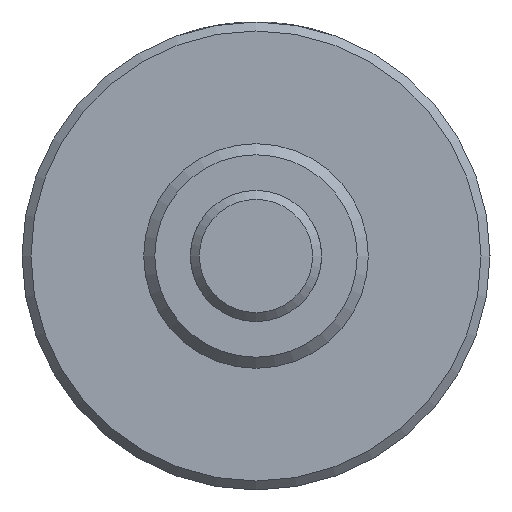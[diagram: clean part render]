
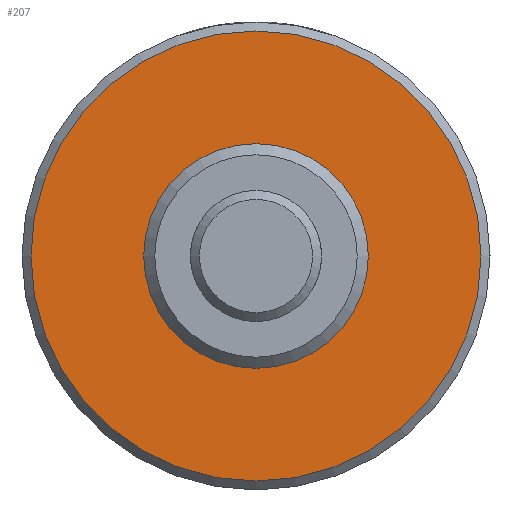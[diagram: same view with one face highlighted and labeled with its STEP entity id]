
A CAD part, left-side view. The second image highlights one B-rep face of the part: STEP entity #207.
In plain terms, the highlighted planar face has unit normal (-1, 0, 0).
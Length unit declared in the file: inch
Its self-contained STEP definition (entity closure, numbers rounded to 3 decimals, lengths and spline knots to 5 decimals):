
#207 = ADVANCED_FACE( '', ( #426, #427 ), #428, .F. );
#426 = FACE_OUTER_BOUND( '', #646, .T. );
#427 = FACE_BOUND( '', #647, .T. );
#428 = PLANE( '', #648 );
#646 = EDGE_LOOP( '', ( #974 ) );
#647 = EDGE_LOOP( '', ( #975 ) );
#648 = AXIS2_PLACEMENT_3D( '', #976, #977, #978 );
#974 = ORIENTED_EDGE( '', *, *, #1166, .F. );
#975 = ORIENTED_EDGE( '', *, *, #1091, .T. );
#976 = CARTESIAN_POINT( '', ( 0.625, 0.375, 0. ) );
#977 = DIRECTION( '', ( 1., 0., 0. ) );
#978 = DIRECTION( '', ( 0., 0., -1. ) );
#1091 = EDGE_CURVE( '', #1239, #1239, #1240, .T. );
#1166 = EDGE_CURVE( '', #1349, #1349, #1350, .T. );
#1239 = VERTEX_POINT( '', #1578 );
#1240 = CIRCLE( '', #1579, 0.375 );
#1349 = VERTEX_POINT( '', #1710 );
#1350 = CIRCLE( '', #1711, 0.7515 );
#1578 = CARTESIAN_POINT( '', ( 0.625, 0., -0.375 ) );
#1579 = AXIS2_PLACEMENT_3D( '', #1783, #1784, #1785 );
#1710 = CARTESIAN_POINT( '', ( 0.625, 0., -0.7515 ) );
#1711 = AXIS2_PLACEMENT_3D( '', #1877, #1878, #1879 );
#1783 = CARTESIAN_POINT( '', ( 0.625, 0., 0. ) );
#1784 = DIRECTION( '', ( 1., 0., 0. ) );
#1785 = DIRECTION( '', ( 0., 0., -1. ) );
#1877 = CARTESIAN_POINT( '', ( 0.625, 0., 0. ) );
#1878 = DIRECTION( '', ( 1., 0., 0. ) );
#1879 = DIRECTION( '', ( 0., 0., -1. ) );
